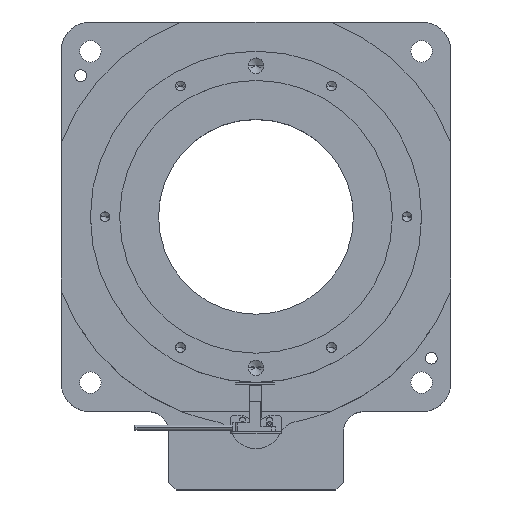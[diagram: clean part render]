
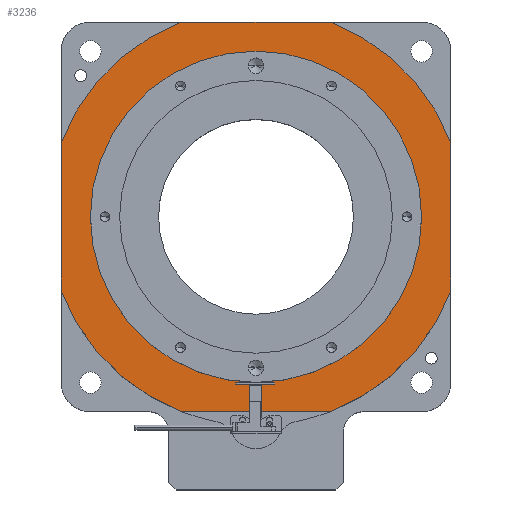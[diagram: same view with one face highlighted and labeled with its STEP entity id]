
A CAD part, top view. The second image highlights one B-rep face of the part: STEP entity #3236.
In plain terms, the highlighted planar face has unit normal (0, 0, 1).
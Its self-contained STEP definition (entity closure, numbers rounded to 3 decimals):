
#24 = AXIS2_PLACEMENT_3D ( 'NONE', #423, #6088, #504 ) ;
#107 = DIRECTION ( 'NONE',  ( -1., 0., 0. ) ) ;
#190 = VERTEX_POINT ( 'NONE', #7216 ) ;
#207 = ORIENTED_EDGE ( 'NONE', *, *, #5131, .F. ) ;
#242 = EDGE_CURVE ( 'NONE', #4889, #5177, #4404, .T. ) ;
#333 = VERTEX_POINT ( 'NONE', #6801 ) ;
#395 = AXIS2_PLACEMENT_3D ( 'NONE', #7451, #5646, #2237 ) ;
#423 = CARTESIAN_POINT ( 'NONE',  ( -29.743, 5.167, 40.6 ) ) ;
#444 = CARTESIAN_POINT ( 'NONE',  ( -29.743, 5.167, 40.6 ) ) ;
#503 = AXIS2_PLACEMENT_3D ( 'NONE', #444, #7915, #2190 ) ;
#504 = DIRECTION ( 'NONE',  ( 1., 0., 0. ) ) ;
#560 = VECTOR ( 'NONE', #107, 1000. ) ;
#783 = EDGE_LOOP ( 'NONE', ( #7637, #207 ) ) ;
#885 = DIRECTION ( 'NONE',  ( 0., 1., 0. ) ) ;
#1226 = EDGE_CURVE ( 'NONE', #5430, #5788, #6011, .T. ) ;
#1251 = EDGE_CURVE ( 'NONE', #7469, #190, #5176, .T. ) ;
#1333 = AXIS2_PLACEMENT_3D ( 'NONE', #3378, #5867, #5222 ) ;
#1367 = DIRECTION ( 'NONE',  ( 1., 0., 0. ) ) ;
#1434 = AXIS2_PLACEMENT_3D ( 'NONE', #2930, #5989, #7921 ) ;
#1490 = CARTESIAN_POINT ( 'NONE',  ( 70.257, 90.167, 40.6 ) ) ;
#1605 = ORIENTED_EDGE ( 'NONE', *, *, #3695, .T. ) ;
#1650 = DIRECTION ( 'NONE',  ( 1., 0., 0. ) ) ;
#1687 = DIRECTION ( 'NONE',  ( 0., 0., 1. ) ) ;
#2147 = ORIENTED_EDGE ( 'NONE', *, *, #7669, .T. ) ;
#2190 = DIRECTION ( 'NONE',  ( 1., 0., 0. ) ) ;
#2237 = DIRECTION ( 'NONE',  ( 1., 0., 0. ) ) ;
#2405 = CARTESIAN_POINT ( 'NONE',  ( -67.808, -94.833, 40.6 ) ) ;
#2466 = PLANE ( 'NONE',  #395 ) ;
#2470 = DIRECTION ( 'NONE',  ( 0., 0., 1. ) ) ;
#2481 = AXIS2_PLACEMENT_3D ( 'NONE', #5133, #1687, #1650 ) ;
#2887 = FACE_BOUND ( 'NONE', #783, .T. ) ;
#2903 = AXIS2_PLACEMENT_3D ( 'NONE', #3161, #2470, #1367 ) ;
#2930 = CARTESIAN_POINT ( 'NONE',  ( -29.743, 5.167, 40.6 ) ) ;
#3161 = CARTESIAN_POINT ( 'NONE',  ( -29.743, 5.167, 40.6 ) ) ;
#3236 = ADVANCED_FACE ( 'NONE', ( #2887, #3500 ), #2466, .T. ) ;
#3266 = EDGE_CURVE ( 'NONE', #4316, #7469, #5856, .T. ) ;
#3302 = ORIENTED_EDGE ( 'NONE', *, *, #4414, .T. ) ;
#3320 = LINE ( 'NONE', #1490, #3974 ) ;
#3378 = CARTESIAN_POINT ( 'NONE',  ( -29.743, 5.167, 40.6 ) ) ;
#3500 = FACE_OUTER_BOUND ( 'NONE', #5729, .T. ) ;
#3652 = ORIENTED_EDGE ( 'NONE', *, *, #1251, .T. ) ;
#3695 = EDGE_CURVE ( 'NONE', #190, #333, #6786, .T. ) ;
#3792 = DIRECTION ( 'NONE',  ( -1., 0., 0. ) ) ;
#3798 = CIRCLE ( 'NONE', #1333, 107. ) ;
#3974 = VECTOR ( 'NONE', #885, 1000. ) ;
#3988 = LINE ( 'NONE', #5428, #8042 ) ;
#4316 = VERTEX_POINT ( 'NONE', #7480 ) ;
#4404 = CIRCLE ( 'NONE', #503, 85. ) ;
#4414 = EDGE_CURVE ( 'NONE', #5023, #6486, #3798, .T. ) ;
#4603 = CARTESIAN_POINT ( 'NONE',  ( 55.257, 5.167, 40.6 ) ) ;
#4610 = ORIENTED_EDGE ( 'NONE', *, *, #6525, .T. ) ;
#4811 = CARTESIAN_POINT ( 'NONE',  ( 8.323, 105.167, 40.6 ) ) ;
#4889 = VERTEX_POINT ( 'NONE', #4603 ) ;
#4893 = DIRECTION ( 'NONE',  ( 0., -1., 0. ) ) ;
#5023 = VERTEX_POINT ( 'NONE', #5533 ) ;
#5045 = LINE ( 'NONE', #7538, #560 ) ;
#5131 = EDGE_CURVE ( 'NONE', #5177, #4889, #6418, .T. ) ;
#5133 = CARTESIAN_POINT ( 'NONE',  ( -29.743, 5.167, 40.6 ) ) ;
#5176 = LINE ( 'NONE', #6897, #6797 ) ;
#5177 = VERTEX_POINT ( 'NONE', #5725 ) ;
#5222 = DIRECTION ( 'NONE',  ( 1., 0., 0. ) ) ;
#5428 = CARTESIAN_POINT ( 'NONE',  ( -129.743, 90.167, 40.6 ) ) ;
#5430 = VERTEX_POINT ( 'NONE', #6896 ) ;
#5533 = CARTESIAN_POINT ( 'NONE',  ( 8.323, -94.833, 40.6 ) ) ;
#5646 = DIRECTION ( 'NONE',  ( 0., 0., 1. ) ) ;
#5725 = CARTESIAN_POINT ( 'NONE',  ( -114.743, 5.167, 40.6 ) ) ;
#5729 = EDGE_LOOP ( 'NONE', ( #6270, #3302, #4610, #7730, #3652, #1605, #2147, #7393 ) ) ;
#5788 = VERTEX_POINT ( 'NONE', #2405 ) ;
#5856 = CIRCLE ( 'NONE', #1434, 107. ) ;
#5867 = DIRECTION ( 'NONE',  ( 0., 0., 1. ) ) ;
#5989 = DIRECTION ( 'NONE',  ( 0., 0., 1. ) ) ;
#6011 = CIRCLE ( 'NONE', #24, 107. ) ;
#6088 = DIRECTION ( 'NONE',  ( 0., 0., 1. ) ) ;
#6270 = ORIENTED_EDGE ( 'NONE', *, *, #6335, .F. ) ;
#6335 = EDGE_CURVE ( 'NONE', #5023, #5788, #5045, .T. ) ;
#6418 = CIRCLE ( 'NONE', #2903, 85. ) ;
#6486 = VERTEX_POINT ( 'NONE', #7696 ) ;
#6525 = EDGE_CURVE ( 'NONE', #6486, #4316, #3320, .T. ) ;
#6786 = CIRCLE ( 'NONE', #2481, 107. ) ;
#6797 = VECTOR ( 'NONE', #3792, 1000. ) ;
#6801 = CARTESIAN_POINT ( 'NONE',  ( -129.743, 43.233, 40.6 ) ) ;
#6896 = CARTESIAN_POINT ( 'NONE',  ( -129.743, -32.899, 40.6 ) ) ;
#6897 = CARTESIAN_POINT ( 'NONE',  ( -114.743, 105.167, 40.6 ) ) ;
#7216 = CARTESIAN_POINT ( 'NONE',  ( -67.808, 105.167, 40.6 ) ) ;
#7393 = ORIENTED_EDGE ( 'NONE', *, *, #1226, .T. ) ;
#7451 = CARTESIAN_POINT ( 'NONE',  ( -29.743, -14.833, 40.6 ) ) ;
#7469 = VERTEX_POINT ( 'NONE', #4811 ) ;
#7480 = CARTESIAN_POINT ( 'NONE',  ( 70.257, 43.233, 40.6 ) ) ;
#7538 = CARTESIAN_POINT ( 'NONE',  ( -102.346, -94.833, 40.6 ) ) ;
#7637 = ORIENTED_EDGE ( 'NONE', *, *, #242, .F. ) ;
#7669 = EDGE_CURVE ( 'NONE', #333, #5430, #3988, .T. ) ;
#7696 = CARTESIAN_POINT ( 'NONE',  ( 70.257, -32.899, 40.6 ) ) ;
#7730 = ORIENTED_EDGE ( 'NONE', *, *, #3266, .T. ) ;
#7915 = DIRECTION ( 'NONE',  ( 0., 0., 1. ) ) ;
#7921 = DIRECTION ( 'NONE',  ( 1., 0., 0. ) ) ;
#8042 = VECTOR ( 'NONE', #4893, 1000. ) ;
